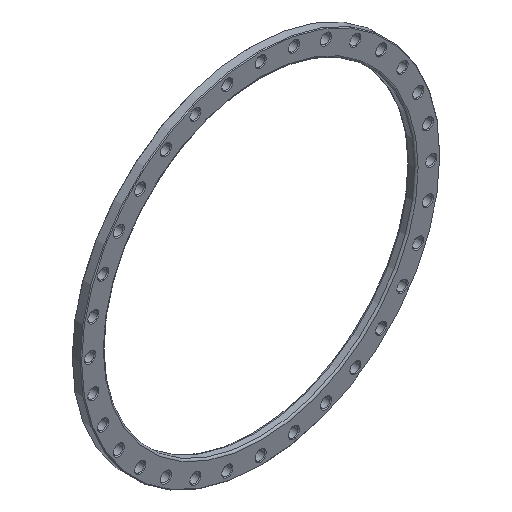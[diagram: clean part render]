
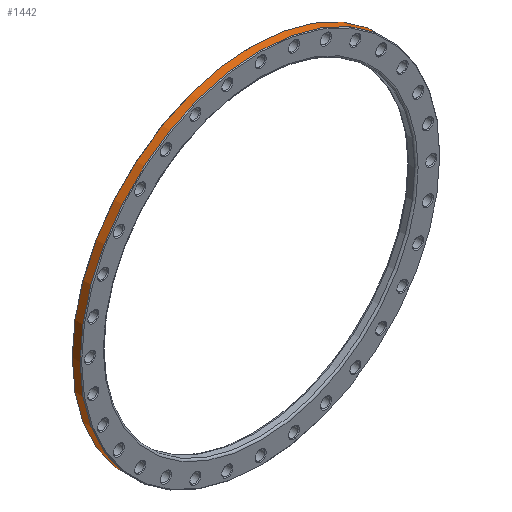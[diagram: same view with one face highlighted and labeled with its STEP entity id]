
A CAD part, isometric view. The second image highlights one B-rep face of the part: STEP entity #1442.
In plain terms, the highlighted cylindrical face has radius 727.5 mm (diameter 1455 mm), a full revolution.
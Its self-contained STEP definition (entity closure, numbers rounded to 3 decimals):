
#278=ORIENTED_EDGE('',*,*,#488,.T.);
#279=ORIENTED_EDGE('',*,*,#489,.T.);
#488=EDGE_CURVE('',#624,#624,#760,.F.);
#489=EDGE_CURVE('',#625,#625,#761,.T.);
#624=VERTEX_POINT('',#2536);
#625=VERTEX_POINT('',#2538);
#760=CIRCLE('',#1686,727.5);
#761=CIRCLE('',#1687,727.5);
#958=EDGE_LOOP('',(#278));
#959=EDGE_LOOP('',(#279));
#1230=FACE_BOUND('',#958,.T.);
#1231=FACE_BOUND('',#959,.T.);
#1346=CYLINDRICAL_SURFACE('',#1685,727.5);
#1442=ADVANCED_FACE('',(#1230,#1231),#1346,.T.);
#1685=AXIS2_PLACEMENT_3D('',#2534,#2147,#2148);
#1686=AXIS2_PLACEMENT_3D('',#2535,#2149,#2150);
#1687=AXIS2_PLACEMENT_3D('',#2537,#2151,#2152);
#2147=DIRECTION('',(0.,-1.,0.));
#2148=DIRECTION('',(0.,0.,-1.));
#2149=DIRECTION('',(0.,1.,0.));
#2150=DIRECTION('',(0.,0.,1.));
#2151=DIRECTION('',(0.,1.,0.));
#2152=DIRECTION('',(0.,0.,1.));
#2534=CARTESIAN_POINT('',(0.,38.,0.));
#2535=CARTESIAN_POINT('',(0.,35.,0.));
#2536=CARTESIAN_POINT('',(0.,35.,727.5));
#2537=CARTESIAN_POINT('',(0.,3.,0.));
#2538=CARTESIAN_POINT('',(0.,3.,727.5));
